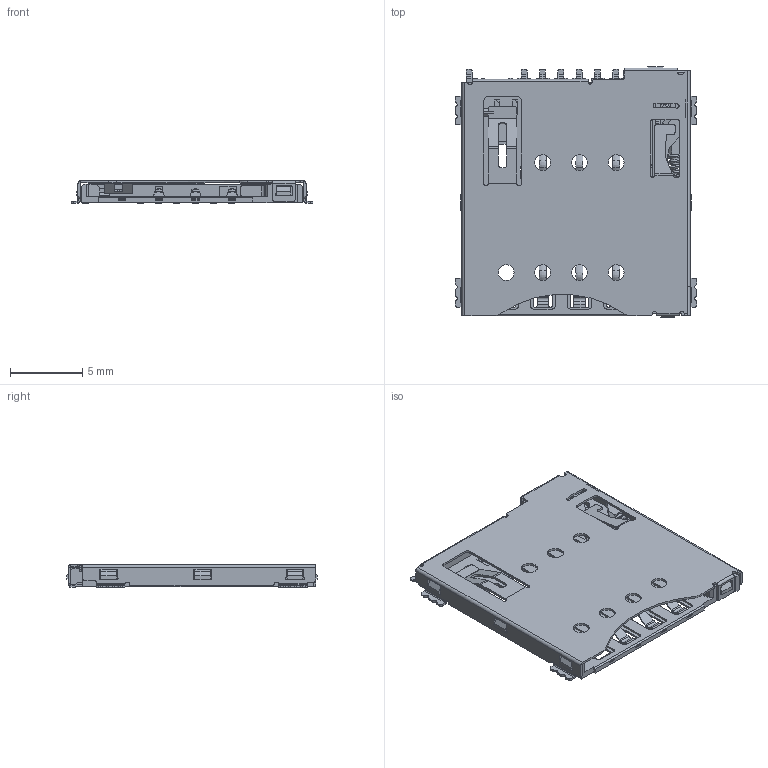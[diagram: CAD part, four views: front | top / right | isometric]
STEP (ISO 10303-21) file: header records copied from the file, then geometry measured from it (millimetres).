
FILE_DESCRIPTION(('FreeCAD Model'),'2;1');
FILE_NAME('Open CASCADE Shape Model','2021-09-03T18:58:04',('FreeCAD'),( 'FreeCAD'),'Open CASCADE STEP processor 7.5','FreeCAD','Unknown');
FILE_SCHEMA(('CONFIG_CONTROL_DESIGN'));
Length unit declared in the file: millimetre
Products named in the file (18): Open CASCADE STEP translator 7.5 1; Open CASCADE STEP translator 7.5 1.1; Open CASCADE STEP translator 7.5 1.1.1; Open CASCADE STEP translator 7.5 1.1.2; Open CASCADE STEP translator 7.5 1.2; Open CASCADE STEP translator 7.5 1.3; Open CASCADE STEP translator 7.5 1.4; Open CASCADE STEP translator 7.5 1.5; Open CASCADE STEP translator 7.5 1.6; Open CASCADE STEP translator 7.5 1.7; Open CASCADE STEP translator 7.5 1.8; Open CASCADE STEP translator 7.5 1.9; Open CASCADE STEP translator 7.5 1.10; Open CASCADE STEP translator 7.5 1.11; Open CASCADE STEP translator 7.5 1.12; Open CASCADE STEP translator 7.5 1.13; Open CASCADE STEP translator 7.5 1.14; Open CASCADE STEP translator 7.5 1.15
Assembly tree (17 placements, depth 3):
  Open CASCADE STEP translator 7.5 1
    Open CASCADE STEP translator 7.5 1.1
      Open CASCADE STEP translator 7.5 1.1.1
      Open CASCADE STEP translator 7.5 1.1.2
    Open CASCADE STEP translator 7.5 1.2
    Open CASCADE STEP translator 7.5 1.3
    Open CASCADE STEP translator 7.5 1.4
    Open CASCADE STEP translator 7.5 1.5
    Open CASCADE STEP translator 7.5 1.6
    Open CASCADE STEP translator 7.5 1.7
    Open CASCADE STEP translator 7.5 1.8
    Open CASCADE STEP translator 7.5 1.9
    Open CASCADE STEP translator 7.5 1.10
    Open CASCADE STEP translator 7.5 1.11
    Open CASCADE STEP translator 7.5 1.12
    Open CASCADE STEP translator 7.5 1.13
    Open CASCADE STEP translator 7.5 1.14
    Open CASCADE STEP translator 7.5 1.15
Bounding box: 16.75 x 17.33 x 1.56 mm (x, y, z)
Volume: 160.5 mm3; surface area: 1499 mm2
Topology: 14 solids, 14 shells, 1712 faces, 4697 edges, 3011 vertices
Faces by surface type: plane 1129, cylinder 532, bspline 27, torus 17, revolution 6, cone 1
Full cylindrical faces by diameter (mm): 0.3 x3, 0.4 x1, 0.5 x1, 1.1 x7
Entity records: 60413 total; most frequent: CARTESIAN_POINT 15784, ORIENTED_EDGE 9392, DIRECTION 8996, EDGE_CURVE 4696, LINE 3384, VECTOR 3384, VERTEX_POINT 3008, AXIS2_PLACEMENT_3D 2803
